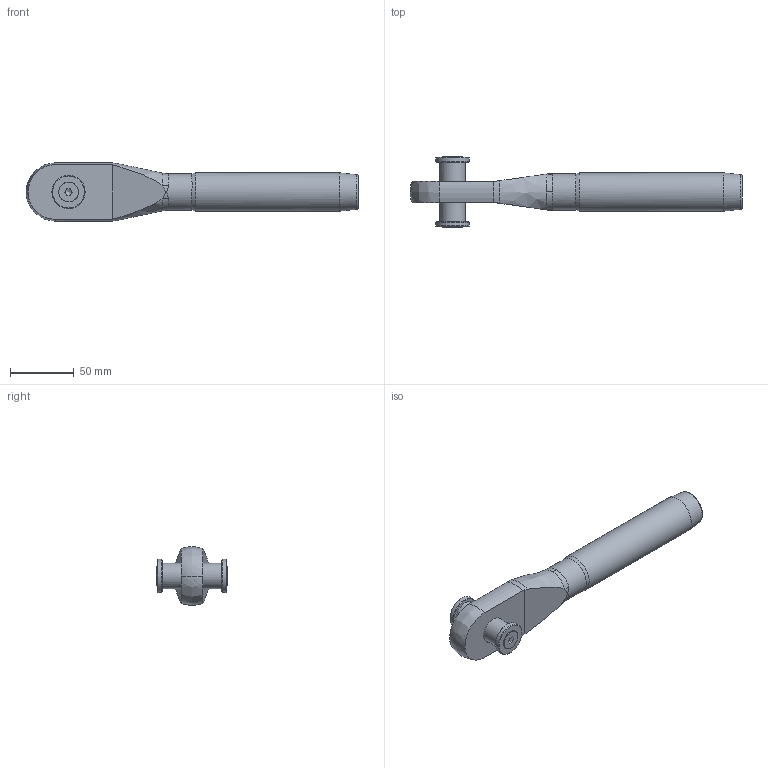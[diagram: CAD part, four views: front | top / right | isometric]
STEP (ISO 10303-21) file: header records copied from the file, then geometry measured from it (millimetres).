
FILE_DESCRIPTION(/* description */ (''),/* implementation_level */ '2;1');
FILE_NAME(/* name */ 'MCC 14_1,4418',/* time_stamp */ '2023-05-23T15:40:31+02:00',/* author */ (''),/* organization */ (''),/* preprocessor_version */ 'ST-DEVELOPER v16.5',/* originating_system */ 'Rhino 7.22',/* authorisation */ '');
FILE_SCHEMA (('CONFIG_CONTROL_DESIGN'));
Length unit declared in the file: millimetre
Products named in the file (1): Document
Bounding box: 260 x 55.57 x 45.95 mm (x, y, z)
Volume: 196554.9 mm3; surface area: 35911.7 mm2
Topology: 6 solids, 6 shells, 74 faces, 203 edges, 135 vertices
Faces by surface type: bspline 31, plane 27, cylinder 16
Full cylindrical faces by diameter (mm): 6.647 x2, 8 x2, 8.5 x2, 15.24 x2, 20 x1, 21 x1, 26 x2, 28.6 x1, 30 x1
Entity records: 3185 total; most frequent: CARTESIAN_POINT 1930, ORIENTED_EDGE 386, EDGE_CURVE 193, VERTEX_POINT 135, EDGE_LOOP 84, ADVANCED_FACE 74, FACE_OUTER_BOUND 74, B_SPLINE_CURVE_WITH_KNOTS 64
